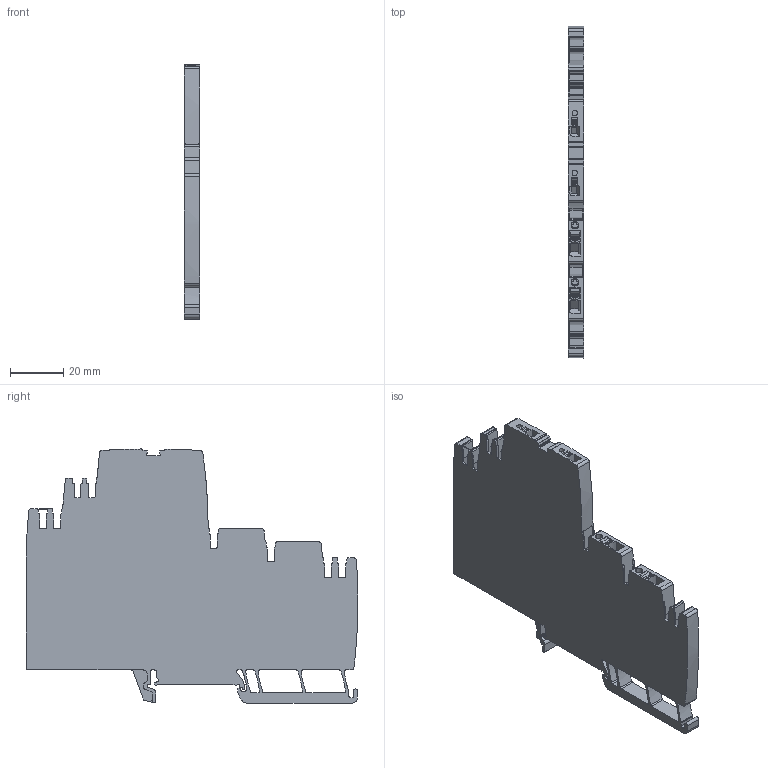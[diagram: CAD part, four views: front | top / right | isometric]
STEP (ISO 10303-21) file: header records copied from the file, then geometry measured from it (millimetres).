
FILE_DESCRIPTION(('CATIA V5R24 STEP','CAx-IF Rec.Pracs.--- Model Styling and Organization---1.2---2011-12-15'),'2;1');
FILE_NAME('\\SRVDE107\Germany\WMC\1_WMC_Input\Step_BU_PA\2495070000.stp','2016-12-15T10:19:38+00:00',('Weidmueller Interface'),('WI'),'CATIA Version 5-6 Release 2014 SP4','CATIA V5 STEP AP214','none');
FILE_SCHEMA(('AUTOMOTIVE_DESIGN { 1 0 10303 214 1 1 1 1 }'));
Length unit declared in the file: millimetre
Products named in the file (1): 2495070000
Bounding box: 6 x 125.08 x 95.73 mm (x, y, z)
Volume: 25660.6 mm3; surface area: 33249.6 mm2
Topology: 6 solids, 6 shells, 884 faces, 2748 edges, 1891 vertices
Faces by surface type: plane 501, cylinder 342, extrusion 41
Entity records: 31387 total; most frequent: CARTESIAN_POINT 7173, ORIENTED_EDGE 5496, DIRECTION 3788, EDGE_CURVE 2748, VERTEX_POINT 1891, VECTOR 1737, LINE 1696, AXIS2_PLACEMENT_3D 1313
